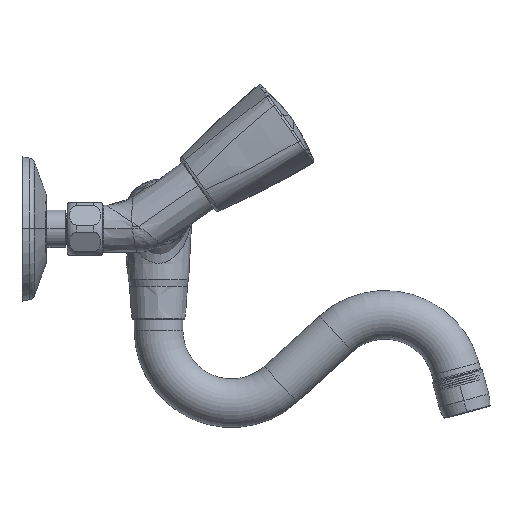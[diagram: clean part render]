
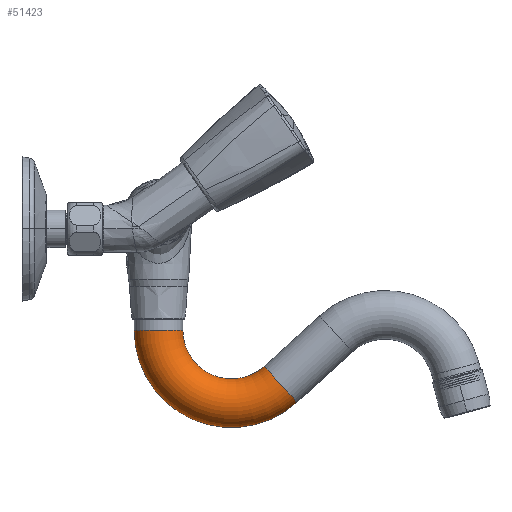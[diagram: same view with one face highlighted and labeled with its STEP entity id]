
A CAD part, top view. The second image highlights one B-rep face of the part: STEP entity #51423.
In plain terms, the highlighted toroidal (fillet/blend) face has major radius 33 mm and minor radius 11 mm.
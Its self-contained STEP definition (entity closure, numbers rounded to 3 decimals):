
#51083=CARTESIAN_POINT('',(33.003,-18.,0.));
#51084=DIRECTION('',(0.,0.,1.));
#51085=DIRECTION('',(-1.,0.,0.));
#51086=AXIS2_PLACEMENT_3D('',#51083,#51084,#51085);
#51088=CARTESIAN_POINT('',(0.003,-18.,0.));
#51089=DIRECTION('',(0.,-1.,0.));
#51090=DIRECTION('',(1.,0.,0.));
#51091=AXIS2_PLACEMENT_3D('',#51088,#51089,#51090);
#51093=CARTESIAN_POINT('',(33.003,-18.,0.));
#51094=DIRECTION('',(0.,0.,1.));
#51095=DIRECTION('',(-1.,0.,0.));
#51096=AXIS2_PLACEMENT_3D('',#51093,#51094,#51095);
#51098=CARTESIAN_POINT('',(55.234,-42.388,0.));
#51099=DIRECTION('',(0.739,0.674,0.));
#51100=DIRECTION('',(-0.674,0.739,0.));
#51101=AXIS2_PLACEMENT_3D('',#51098,#51099,#51100);
#51306=CARTESIAN_POINT('',(11.003,-18.,0.));
#51307=CARTESIAN_POINT('',(-10.997,-18.,0.));
#51308=VERTEX_POINT('',#51306);
#51309=VERTEX_POINT('',#51307);
#51314=CARTESIAN_POINT('',(47.824,-34.259,0.));
#51315=CARTESIAN_POINT('',(62.644,-50.517,0.));
#51316=VERTEX_POINT('',#51314);
#51317=VERTEX_POINT('',#51315);
#51411=CARTESIAN_POINT('',(33.003,-18.,0.));
#51412=DIRECTION('',(0.,0.,1.));
#51413=DIRECTION('',(1.,0.,0.));
#51414=AXIS2_PLACEMENT_3D('',#51411,#51412,#51413);
#51415=TOROIDAL_SURFACE('',#51414,33.,11.);
#51416=ORIENTED_EDGE('',*,*,#51376,.F.);
#51417=ORIENTED_EDGE('',*,*,#51406,.T.);
#51419=ORIENTED_EDGE('',*,*,#51418,.T.);
#51420=ORIENTED_EDGE('',*,*,#51402,.F.);
#51421=EDGE_LOOP('',(#51416,#51417,#51419,#51420));
#51422=FACE_OUTER_BOUND('',#51421,.F.);
#51423=ADVANCED_FACE('',(#51422),#51415,.T.);
#51087=CIRCLE('',#51086,44.);
#51092=CIRCLE('',#51091,11.);
#51097=CIRCLE('',#51096,22.);
#51102=CIRCLE('',#51101,11.);
#51376=EDGE_CURVE('',#51308,#51309,#51092,.T.);
#51402=EDGE_CURVE('',#51309,#51317,#51087,.T.);
#51406=EDGE_CURVE('',#51308,#51316,#51097,.T.);
#51418=EDGE_CURVE('',#51316,#51317,#51102,.T.);
